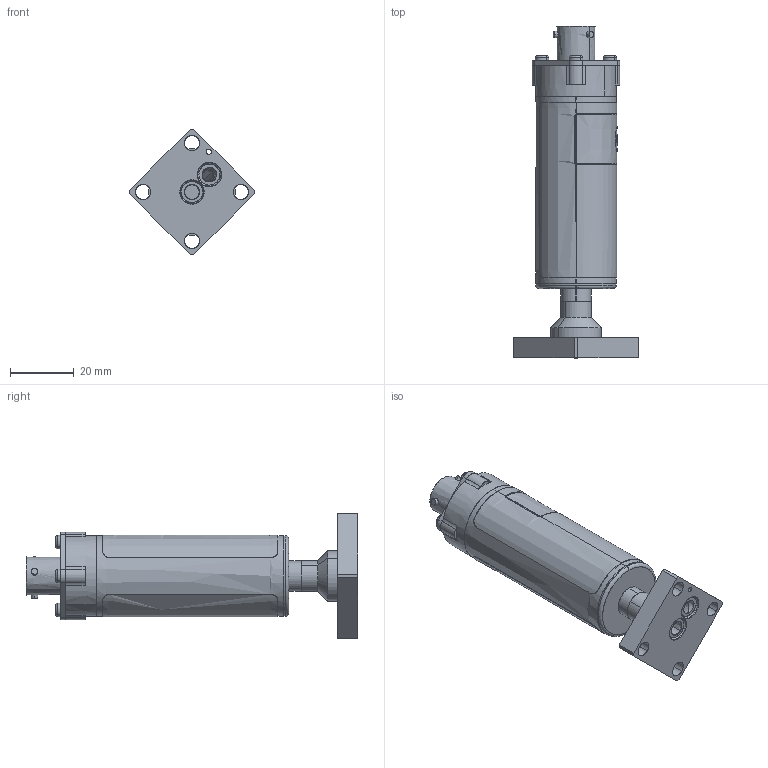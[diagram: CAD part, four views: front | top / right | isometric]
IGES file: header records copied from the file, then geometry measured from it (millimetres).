
Start section: SolidWorks IGES file using analytic representation for surfaces
Global section: file name: R:\Brooks Instrument\25-0024 SSII CAD File Generation\Client Files\SSII CAD Models for Website\CAD for Brooks Website\Example\GSD\GSD-XXXXXX-B-XXX-CS\IGES\GSD-XXXXXX-B-XXX-CS.IGS; native system: SolidWorks 2023; preprocessor: SolidWorks 2023; author: dgoddard; date: 250623.084045; units: inch
Bounding box: 39.33 x 104.32 x 39.33 mm (x, y, z)
Surface area: 18733 mm2 (no closed solid volume)
Topology: 0 solids, 0 shells, 409 faces, 5277 edges, 5273 vertices
Faces by surface type: bspline 233, revolution 176
